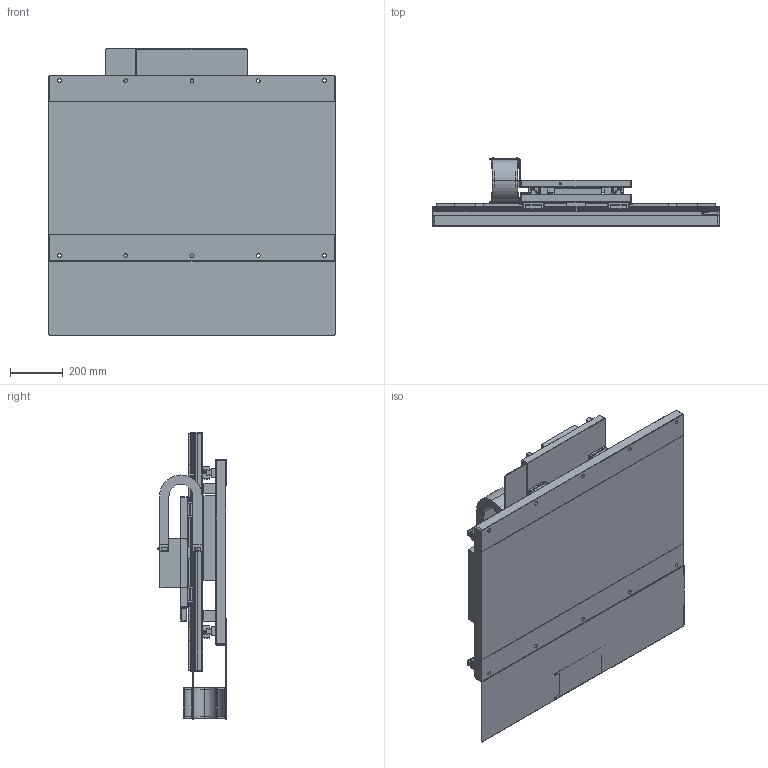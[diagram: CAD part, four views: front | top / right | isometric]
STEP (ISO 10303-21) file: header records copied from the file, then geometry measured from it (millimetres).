
FILE_DESCRIPTION (( 'STEP AP214' ), '1' );
FILE_NAME ('NST-D60B545A5BPNB_#2.00_0.STEP', '2021-04-15T06:19:01', ( '' ), ( '' ), 'SwSTEP 2.0', 'SolidWorks 2018', '' );
FILE_SCHEMA (( 'AUTOMOTIVE_DESIGN' ));
Length unit declared in the file: millimetre
Products named in the file (6): 15GK0070; AUA02620; AUA02630; NST-D60B545A5BPNB_#2.00_0; AUA02490; 15UK0530
Assembly tree (5 placements, depth 2):
  NST-D60B545A5BPNB_#2.00_0
    AUA02620
    AUA02630
    AUA02490
    15GK0070
    15UK0530
Bounding box: 1080 x 258 x 1080 mm (x, y, z)
Volume: 70286508.4 mm3; surface area: 5715293.8 mm2
Topology: 52 solids, 54 shells, 2030 faces, 5282 edges, 3359 vertices
Faces by surface type: plane 1322, cylinder 466, cone 146, torus 48, sphere 48
Entity records: 83349 total; most frequent: CARTESIAN_POINT 12125, ORIENTED_EDGE 10416, DIRECTION 10352, EDGE_CURVE 5208, VECTOR 3564, LINE 3564, AXIS2_PLACEMENT_3D 3394, VERTEX_POINT 3343
